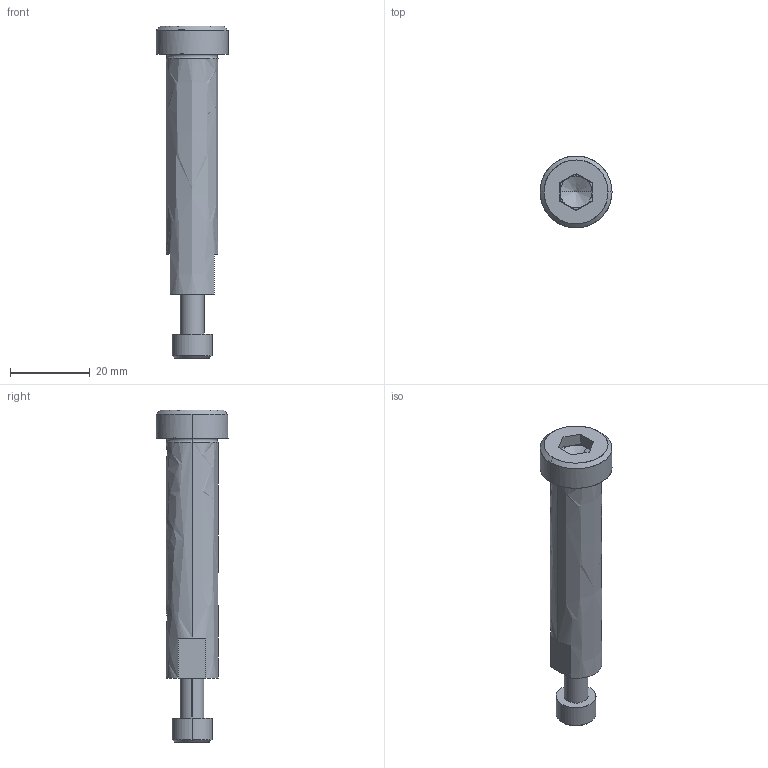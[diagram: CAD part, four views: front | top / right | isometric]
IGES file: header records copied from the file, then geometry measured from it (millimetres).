
Global section: file name: E:\UnigraphicsGraphicData\MISUMI_PRESS-PARTS\IGES\3d_sbt13-60_05055_r00.igs; native system: NX V5.0; preprocessor: UGS NX IGES V5.0; author: MISUMI; date: 20110105.162435; units: millimetre
Bounding box: 18 x 18 x 83 mm (x, y, z)
Surface area: 4583.7 mm2 (no closed solid volume)
Topology: 0 solids, 0 shells, 56 faces, 310 edges, 306 vertices
Faces by surface type: bspline 56
